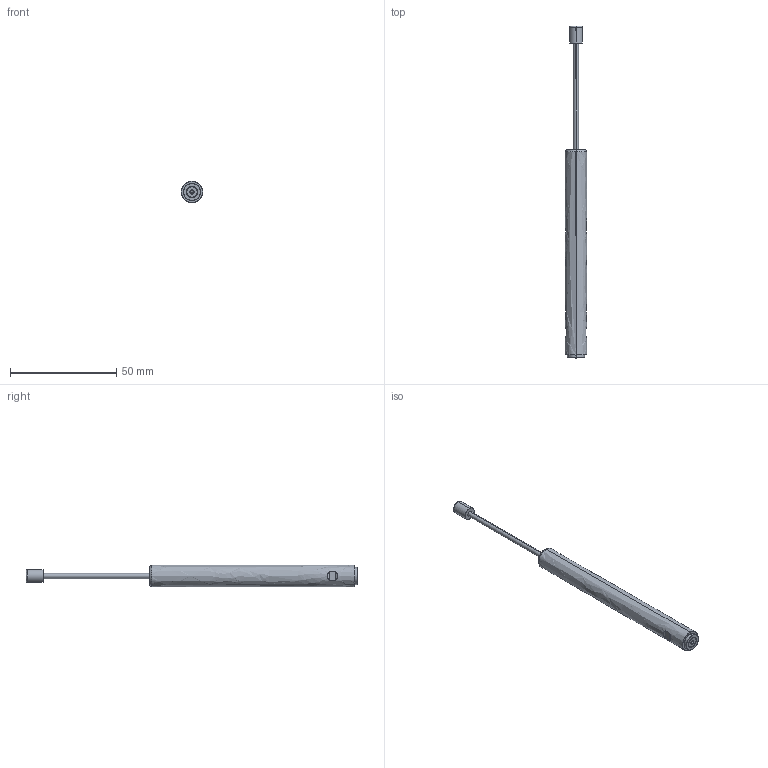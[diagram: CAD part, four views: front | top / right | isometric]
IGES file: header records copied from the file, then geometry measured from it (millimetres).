
Start section: SolidWorks IGES file using analytic representation for surfaces
Bounding box: 10 x 156 x 10 mm (x, y, z)
Surface area: 4139.3 mm2 (no closed solid volume)
Topology: 0 solids, 0 shells, 66 faces, 762 edges, 760 vertices
Faces by surface type: bspline 37, revolution 29
